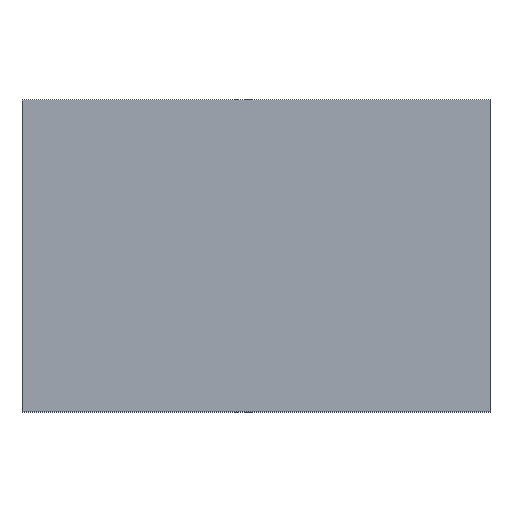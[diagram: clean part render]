
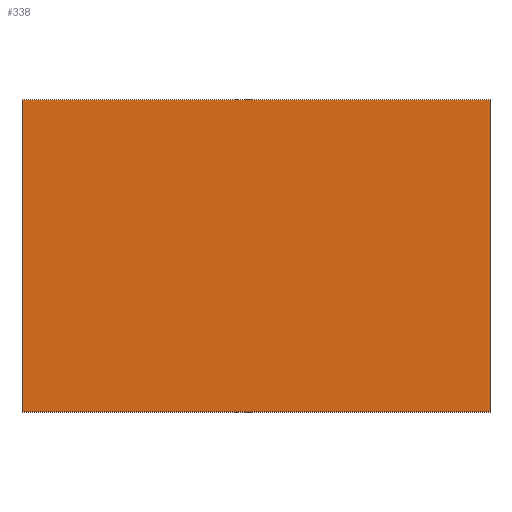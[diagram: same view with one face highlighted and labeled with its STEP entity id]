
A CAD part, top view. The second image highlights one B-rep face of the part: STEP entity #338.
In plain terms, the highlighted planar face has unit normal (0, 0, 1).
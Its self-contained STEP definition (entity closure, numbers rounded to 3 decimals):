
#24 = VERTEX_POINT('',#25);
#25 = CARTESIAN_POINT('',(18.,-12.,0.));
#32 = PLANE('',#33);
#33 = AXIS2_PLACEMENT_3D('',#34,#35,#36);
#34 = CARTESIAN_POINT('',(18.,-12.,-0.15));
#35 = DIRECTION('',(-1.,-0.,0.));
#36 = DIRECTION('',(0.,0.,-1.));
#44 = PLANE('',#45);
#45 = AXIS2_PLACEMENT_3D('',#46,#47,#48);
#46 = CARTESIAN_POINT('',(18.,-12.,-0.15));
#47 = DIRECTION('',(-0.,1.,0.));
#48 = DIRECTION('',(0.,0.,-1.));
#85 = VERTEX_POINT('',#86);
#86 = CARTESIAN_POINT('',(18.,12.,0.));
#100 = PLANE('',#101);
#101 = AXIS2_PLACEMENT_3D('',#102,#103,#104);
#102 = CARTESIAN_POINT('',(18.,12.,-0.15));
#103 = DIRECTION('',(-0.,1.,0.));
#104 = DIRECTION('',(0.,0.,-1.));
#112 = EDGE_CURVE('',#24,#85,#113,.T.);
#113 = SURFACE_CURVE('',#114,(#118,#125),.PCURVE_S1.);
#114 = LINE('',#115,#116);
#115 = CARTESIAN_POINT('',(18.,-12.,0.));
#116 = VECTOR('',#117,1.);
#117 = DIRECTION('',(-0.,1.,0.));
#118 = PCURVE('',#32,#119);
#119 = DEFINITIONAL_REPRESENTATION('',(#120),#124);
#120 = LINE('',#121,#122);
#121 = CARTESIAN_POINT('',(-0.15,-0.));
#122 = VECTOR('',#123,1.);
#123 = DIRECTION('',(-0.,-1.));
#124 = ( GEOMETRIC_REPRESENTATION_CONTEXT(2) 
PARAMETRIC_REPRESENTATION_CONTEXT() REPRESENTATION_CONTEXT('2D SPACE',''
  ) );
#125 = PCURVE('',#126,#131);
#126 = PLANE('',#127);
#127 = AXIS2_PLACEMENT_3D('',#128,#129,#130);
#128 = CARTESIAN_POINT('',(18.,-12.,0.));
#129 = DIRECTION('',(0.,0.,1.));
#130 = DIRECTION('',(1.,0.,0.));
#131 = DEFINITIONAL_REPRESENTATION('',(#132),#136);
#132 = LINE('',#133,#134);
#133 = CARTESIAN_POINT('',(0.,-0.));
#134 = VECTOR('',#135,1.);
#135 = DIRECTION('',(-0.,1.));
#136 = ( GEOMETRIC_REPRESENTATION_CONTEXT(2) 
PARAMETRIC_REPRESENTATION_CONTEXT() REPRESENTATION_CONTEXT('2D SPACE',''
  ) );
#144 = VERTEX_POINT('',#145);
#145 = CARTESIAN_POINT('',(-18.,-12.,0.));
#152 = PLANE('',#153);
#153 = AXIS2_PLACEMENT_3D('',#154,#155,#156);
#154 = CARTESIAN_POINT('',(-18.,-12.,-0.15));
#155 = DIRECTION('',(-1.,-0.,0.));
#156 = DIRECTION('',(0.,0.,-1.));
#195 = VERTEX_POINT('',#196);
#196 = CARTESIAN_POINT('',(-18.,12.,0.));
#217 = EDGE_CURVE('',#144,#195,#218,.T.);
#218 = SURFACE_CURVE('',#219,(#223,#230),.PCURVE_S1.);
#219 = LINE('',#220,#221);
#220 = CARTESIAN_POINT('',(-18.,-12.,0.));
#221 = VECTOR('',#222,1.);
#222 = DIRECTION('',(-0.,1.,0.));
#223 = PCURVE('',#152,#224);
#224 = DEFINITIONAL_REPRESENTATION('',(#225),#229);
#225 = LINE('',#226,#227);
#226 = CARTESIAN_POINT('',(-0.15,-0.));
#227 = VECTOR('',#228,1.);
#228 = DIRECTION('',(-0.,-1.));
#229 = ( GEOMETRIC_REPRESENTATION_CONTEXT(2) 
PARAMETRIC_REPRESENTATION_CONTEXT() REPRESENTATION_CONTEXT('2D SPACE',''
  ) );
#230 = PCURVE('',#126,#231);
#231 = DEFINITIONAL_REPRESENTATION('',(#232),#236);
#232 = LINE('',#233,#234);
#233 = CARTESIAN_POINT('',(-36.,0.));
#234 = VECTOR('',#235,1.);
#235 = DIRECTION('',(-0.,1.));
#236 = ( GEOMETRIC_REPRESENTATION_CONTEXT(2) 
PARAMETRIC_REPRESENTATION_CONTEXT() REPRESENTATION_CONTEXT('2D SPACE',''
  ) );
#263 = EDGE_CURVE('',#24,#144,#264,.T.);
#264 = SURFACE_CURVE('',#265,(#269,#276),.PCURVE_S1.);
#265 = LINE('',#266,#267);
#266 = CARTESIAN_POINT('',(18.,-12.,0.));
#267 = VECTOR('',#268,1.);
#268 = DIRECTION('',(-1.,-0.,0.));
#269 = PCURVE('',#44,#270);
#270 = DEFINITIONAL_REPRESENTATION('',(#271),#275);
#271 = LINE('',#272,#273);
#272 = CARTESIAN_POINT('',(-0.15,-0.));
#273 = VECTOR('',#274,1.);
#274 = DIRECTION('',(-0.,1.));
#275 = ( GEOMETRIC_REPRESENTATION_CONTEXT(2) 
PARAMETRIC_REPRESENTATION_CONTEXT() REPRESENTATION_CONTEXT('2D SPACE',''
  ) );
#276 = PCURVE('',#126,#277);
#277 = DEFINITIONAL_REPRESENTATION('',(#278),#282);
#278 = LINE('',#279,#280);
#279 = CARTESIAN_POINT('',(0.,-0.));
#280 = VECTOR('',#281,1.);
#281 = DIRECTION('',(-1.,0.));
#282 = ( GEOMETRIC_REPRESENTATION_CONTEXT(2) 
PARAMETRIC_REPRESENTATION_CONTEXT() REPRESENTATION_CONTEXT('2D SPACE',''
  ) );
#310 = EDGE_CURVE('',#85,#195,#311,.T.);
#311 = SURFACE_CURVE('',#312,(#316,#323),.PCURVE_S1.);
#312 = LINE('',#313,#314);
#313 = CARTESIAN_POINT('',(18.,12.,0.));
#314 = VECTOR('',#315,1.);
#315 = DIRECTION('',(-1.,-0.,0.));
#316 = PCURVE('',#100,#317);
#317 = DEFINITIONAL_REPRESENTATION('',(#318),#322);
#318 = LINE('',#319,#320);
#319 = CARTESIAN_POINT('',(-0.15,-0.));
#320 = VECTOR('',#321,1.);
#321 = DIRECTION('',(-0.,1.));
#322 = ( GEOMETRIC_REPRESENTATION_CONTEXT(2) 
PARAMETRIC_REPRESENTATION_CONTEXT() REPRESENTATION_CONTEXT('2D SPACE',''
  ) );
#323 = PCURVE('',#126,#324);
#324 = DEFINITIONAL_REPRESENTATION('',(#325),#329);
#325 = LINE('',#326,#327);
#326 = CARTESIAN_POINT('',(0.,24.));
#327 = VECTOR('',#328,1.);
#328 = DIRECTION('',(-1.,0.));
#329 = ( GEOMETRIC_REPRESENTATION_CONTEXT(2) 
PARAMETRIC_REPRESENTATION_CONTEXT() REPRESENTATION_CONTEXT('2D SPACE',''
  ) );
#338 = ADVANCED_FACE('',(#339),#126,.T.);
#339 = FACE_BOUND('',#340,.F.);
#340 = EDGE_LOOP('',(#341,#342,#343,#344));
#341 = ORIENTED_EDGE('',*,*,#112,.F.);
#342 = ORIENTED_EDGE('',*,*,#263,.T.);
#343 = ORIENTED_EDGE('',*,*,#217,.T.);
#344 = ORIENTED_EDGE('',*,*,#310,.F.);
